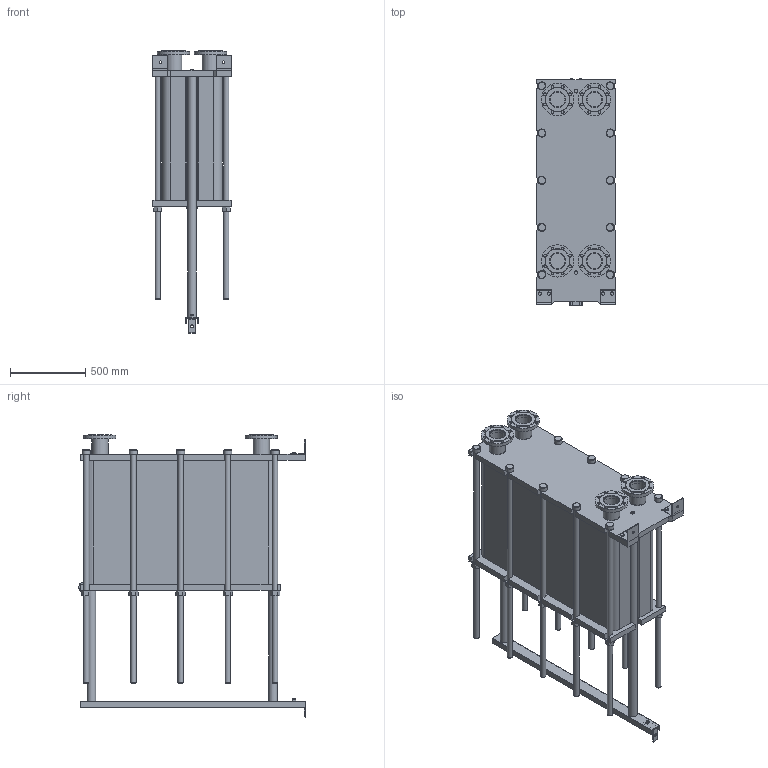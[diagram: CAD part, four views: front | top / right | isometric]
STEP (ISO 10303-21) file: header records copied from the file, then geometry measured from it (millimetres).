
FILE_DESCRIPTION(/* description */ (''),/* implementation_level */ '2;1');
FILE_NAME(/* name */ 'C:\Users\zhuro\Desktop\ENCO\TO\ЭН-04\ЭН-0,5-04-239-1.stp',/* time_stamp */ '2022-06-06T11:06:10+03:00',/* author */ ('zhuro'),/* organization */ (''),/* preprocessor_version */ 'ST-DEVELOPER v18.1',/* originating_system */ 'Autodesk Inventor 2022',/* authorisation */ '');
FILE_SCHEMA (('AUTOMOTIVE_DESIGN { 1 0 10303 214 3 1 1 }'));
Length unit declared in the file: millimetre
Products named in the file (1): ЭН-0,5-04-239-1
Bounding box: 520 x 1510 x 1879.5 mm (x, y, z)
Volume: 490762306.2 mm3; surface area: 11411885.1 mm2
Topology: 45 solids, 45 shells, 668 faces, 1611 edges, 1048 vertices
Faces by surface type: plane 457, cylinder 166, cone 39, torus 6
Full cylindrical faces by diameter (mm): 8 x4, 10 x2, 16 x8, 18 x35, 36 x25, 40 x2, 42 x1, 45 x4, 54 x10, 57 x2, 60 x10, 68 x2, 100 x4, 110 x8, 215 x4
Entity records: 23607 total; most frequent: CARTESIAN_POINT 7348, DIRECTION 3371, ORIENTED_EDGE 3142, EDGE_CURVE 1571, AXIS2_PLACEMENT_3D 1199, VERTEX_POINT 1044, LINE 973, VECTOR 973
